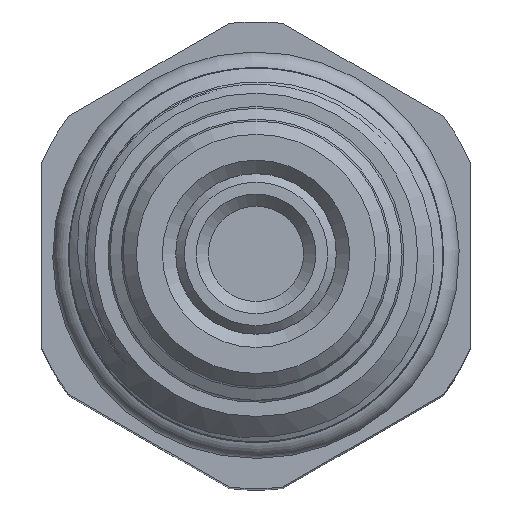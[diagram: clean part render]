
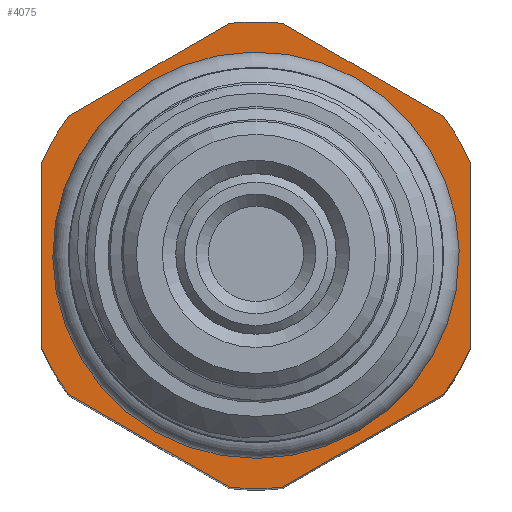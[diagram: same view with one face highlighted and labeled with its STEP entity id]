
A CAD part, top view. The second image highlights one B-rep face of the part: STEP entity #4075.
In plain terms, the highlighted planar face has unit normal (0, 0, 1).
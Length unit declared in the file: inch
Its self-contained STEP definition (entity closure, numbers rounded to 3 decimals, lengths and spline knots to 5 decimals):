
#91=FACE_BOUND('',#1032,.T.);
#234=PLANE('',#4457);
#379=CIRCLE('',#4415,0.545);
#380=CIRCLE('',#4418,0.545);
#381=CIRCLE('',#4421,0.545);
#382=CIRCLE('',#4423,0.545);
#393=CIRCLE('',#4438,0.426);
#394=CIRCLE('',#4439,0.426);
#397=CIRCLE('',#4448,0.545);
#398=CIRCLE('',#4451,0.545);
#776=FACE_OUTER_BOUND('',#1031,.T.);
#1031=EDGE_LOOP('',(#3324,#3325,#3326,#3327,#3328,#3329,#3330,#3331,#3332,
#3333,#3334,#3335));
#1032=EDGE_LOOP('',(#3336,#3337));
#1405=LINE('',#11900,#1564);
#1409=LINE('',#11909,#1568);
#1412=LINE('',#11917,#1571);
#1419=LINE('',#11966,#1578);
#1421=LINE('',#11973,#1580);
#1424=LINE('',#11980,#1583);
#1564=VECTOR('',#5070,0.3937);
#1568=VECTOR('',#5080,0.3937);
#1571=VECTOR('',#5089,0.3937);
#1578=VECTOR('',#5150,0.3937);
#1580=VECTOR('',#5158,0.3937);
#1583=VECTOR('',#5167,0.3937);
#1877=VERTEX_POINT('',#11897);
#1878=VERTEX_POINT('',#11899);
#1879=VERTEX_POINT('',#11903);
#1880=VERTEX_POINT('',#11907);
#1881=VERTEX_POINT('',#11911);
#1882=VERTEX_POINT('',#11915);
#1883=VERTEX_POINT('',#11919);
#1884=VERTEX_POINT('',#11923);
#1885=VERTEX_POINT('',#11925);
#1895=VERTEX_POINT('',#11953);
#1896=VERTEX_POINT('',#11954);
#1898=VERTEX_POINT('',#11968);
#1899=VERTEX_POINT('',#11972);
#1900=VERTEX_POINT('',#11976);
#2374=EDGE_CURVE('',#1877,#1878,#1405,.T.);
#2377=EDGE_CURVE('',#1879,#1877,#379,.T.);
#2379=EDGE_CURVE('',#1880,#1879,#1409,.T.);
#2381=EDGE_CURVE('',#1881,#1880,#380,.T.);
#2383=EDGE_CURVE('',#1882,#1881,#1412,.T.);
#2385=EDGE_CURVE('',#1883,#1882,#381,.T.);
#2387=EDGE_CURVE('',#1884,#1885,#382,.T.);
#2401=EDGE_CURVE('',#1895,#1896,#393,.T.);
#2402=EDGE_CURVE('',#1896,#1895,#394,.T.);
#2406=EDGE_CURVE('',#1885,#1883,#1419,.T.);
#2407=EDGE_CURVE('',#1878,#1898,#397,.T.);
#2409=EDGE_CURVE('',#1898,#1899,#1421,.T.);
#2411=EDGE_CURVE('',#1899,#1900,#398,.T.);
#2413=EDGE_CURVE('',#1900,#1884,#1424,.T.);
#3324=ORIENTED_EDGE('',*,*,#2381,.F.);
#3325=ORIENTED_EDGE('',*,*,#2383,.F.);
#3326=ORIENTED_EDGE('',*,*,#2385,.F.);
#3327=ORIENTED_EDGE('',*,*,#2406,.F.);
#3328=ORIENTED_EDGE('',*,*,#2387,.F.);
#3329=ORIENTED_EDGE('',*,*,#2413,.F.);
#3330=ORIENTED_EDGE('',*,*,#2411,.F.);
#3331=ORIENTED_EDGE('',*,*,#2409,.F.);
#3332=ORIENTED_EDGE('',*,*,#2407,.F.);
#3333=ORIENTED_EDGE('',*,*,#2374,.F.);
#3334=ORIENTED_EDGE('',*,*,#2377,.F.);
#3335=ORIENTED_EDGE('',*,*,#2379,.F.);
#3336=ORIENTED_EDGE('',*,*,#2401,.F.);
#3337=ORIENTED_EDGE('',*,*,#2402,.F.);
#4075=ADVANCED_FACE('',(#776,#91),#234,.T.);
#4415=AXIS2_PLACEMENT_3D('',#11905,#5075,#5076);
#4418=AXIS2_PLACEMENT_3D('',#11913,#5084,#5085);
#4421=AXIS2_PLACEMENT_3D('',#11921,#5093,#5094);
#4423=AXIS2_PLACEMENT_3D('',#11926,#5098,#5099);
#4438=AXIS2_PLACEMENT_3D('',#11955,#5131,#5132);
#4439=AXIS2_PLACEMENT_3D('',#11956,#5133,#5134);
#4448=AXIS2_PLACEMENT_3D('',#11969,#5153,#5154);
#4451=AXIS2_PLACEMENT_3D('',#11977,#5162,#5163);
#4457=AXIS2_PLACEMENT_3D('',#11988,#5177,#5178);
#5070=DIRECTION('',(0.,1.,0.));
#5075=DIRECTION('center_axis',(0.,0.,
-1.));
#5076=DIRECTION('ref_axis',(1.,0.,0.));
#5080=DIRECTION('',(-0.866,0.5,0.));
#5084=DIRECTION('center_axis',(0.,0.,
-1.));
#5085=DIRECTION('ref_axis',(1.,0.,0.));
#5089=DIRECTION('',(-0.866,-0.5,0.));
#5093=DIRECTION('center_axis',(0.,0.,
-1.));
#5094=DIRECTION('ref_axis',(1.,0.,0.));
#5098=DIRECTION('center_axis',(0.,0.,
-1.));
#5099=DIRECTION('ref_axis',(1.,0.,0.));
#5131=DIRECTION('center_axis',(0.,0.,
1.));
#5132=DIRECTION('ref_axis',(-1.,0.,0.));
#5133=DIRECTION('center_axis',(0.,0.,
1.));
#5134=DIRECTION('ref_axis',(-1.,0.,0.));
#5150=DIRECTION('',(0.,-1.,0.));
#5153=DIRECTION('center_axis',(0.,0.,
-1.));
#5154=DIRECTION('ref_axis',(1.,0.,0.));
#5158=DIRECTION('',(0.866,0.5,0.));
#5162=DIRECTION('center_axis',(0.,0.,
-1.));
#5163=DIRECTION('ref_axis',(1.,0.,0.));
#5167=DIRECTION('',(0.866,-0.5,0.));
#5177=DIRECTION('center_axis',(0.,0.,
1.));
#5178=DIRECTION('ref_axis',(1.,0.,0.));
#11897=CARTESIAN_POINT('',(-0.5,-0.21685,2.));
#11899=CARTESIAN_POINT('',(-0.5,0.21685,2.));
#11900=CARTESIAN_POINT('',(-0.5,-0.10843,2.));
#11903=CARTESIAN_POINT('',(-0.4378,-0.32459,2.));
#11905=CARTESIAN_POINT('Origin',(0.,0.,2.));
#11907=CARTESIAN_POINT('',(-0.0622,-0.54144,2.));
#11909=CARTESIAN_POINT('',(-0.1561,-0.48723,2.));
#11911=CARTESIAN_POINT('',(0.0622,-0.54144,2.));
#11913=CARTESIAN_POINT('Origin',(0.,0.,2.));
#11915=CARTESIAN_POINT('',(0.4378,-0.32459,2.));
#11917=CARTESIAN_POINT('',(0.3439,-0.3788,2.));
#11919=CARTESIAN_POINT('',(0.5,-0.21685,2.));
#11921=CARTESIAN_POINT('Origin',(0.,0.,2.));
#11923=CARTESIAN_POINT('',(0.4378,0.32459,2.));
#11925=CARTESIAN_POINT('',(0.5,0.21685,2.));
#11926=CARTESIAN_POINT('Origin',(0.,0.,2.));
#11953=CARTESIAN_POINT('',(0.426,0.,2.));
#11954=CARTESIAN_POINT('',(0.42588,0.01025,2.));
#11955=CARTESIAN_POINT('Origin',(0.,0.,
2.));
#11956=CARTESIAN_POINT('Origin',(0.,0.,
2.));
#11966=CARTESIAN_POINT('',(0.5,0.10843,2.));
#11968=CARTESIAN_POINT('',(-0.4378,0.32459,2.));
#11969=CARTESIAN_POINT('Origin',(0.,0.,2.));
#11972=CARTESIAN_POINT('',(-0.0622,0.54144,2.));
#11973=CARTESIAN_POINT('',(-0.3439,0.3788,2.));
#11976=CARTESIAN_POINT('',(0.0622,0.54144,2.));
#11977=CARTESIAN_POINT('Origin',(0.,0.,2.));
#11980=CARTESIAN_POINT('',(0.1561,0.48723,2.));
#11988=CARTESIAN_POINT('Origin',(0.,0.,
2.));
